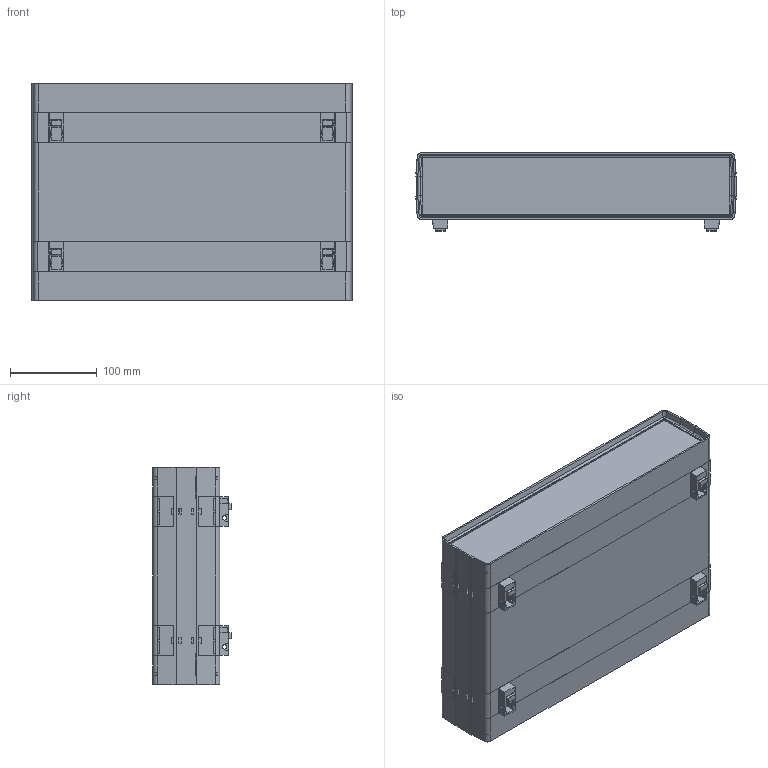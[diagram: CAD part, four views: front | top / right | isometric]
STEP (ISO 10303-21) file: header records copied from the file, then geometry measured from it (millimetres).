
FILE_DESCRIPTION (( 'STEP AP214' ), '1' );
FILE_NAME ('EM-15-NV.STEP', '2020-09-14T22:45:46', ( 'Rudy' ), ( '' ), 'SwSTEP 2.0', 'SolidWorks 2014', '' );
FILE_SCHEMA (( 'AUTOMOTIVE_DESIGN' ));
Length unit declared in the file: inch
Products named in the file (7): AET-008; EPM-15; AET-001; 15 inch Euro Tech; EM-15-NV; Rubber foot; AET-017
Assembly tree (14 placements, depth 2):
  EM-15-NV
    15 inch Euro Tech  x2
    AET-001  x2
    EPM-15  x2
    AET-008  x2
    AET-017  x2
    Rubber foot  x4
Bounding box: 368.68 x 90.37 x 250.19 mm (x, y, z)
Volume: 976463.6 mm3; surface area: 851006.1 mm2
Topology: 26 solids, 26 shells, 6488 faces, 18292 edges, 12050 vertices
Faces by surface type: plane 5376, cylinder 676, cone 328, sphere 60, torus 48
Entity records: 103510 total; most frequent: CARTESIAN_POINT 19227, ORIENTED_EDGE 18004, DIRECTION 16388, EDGE_CURVE 9002, VECTOR 7332, LINE 7332, VERTEX_POINT 5961, AXIS2_PLACEMENT_3D 4528
